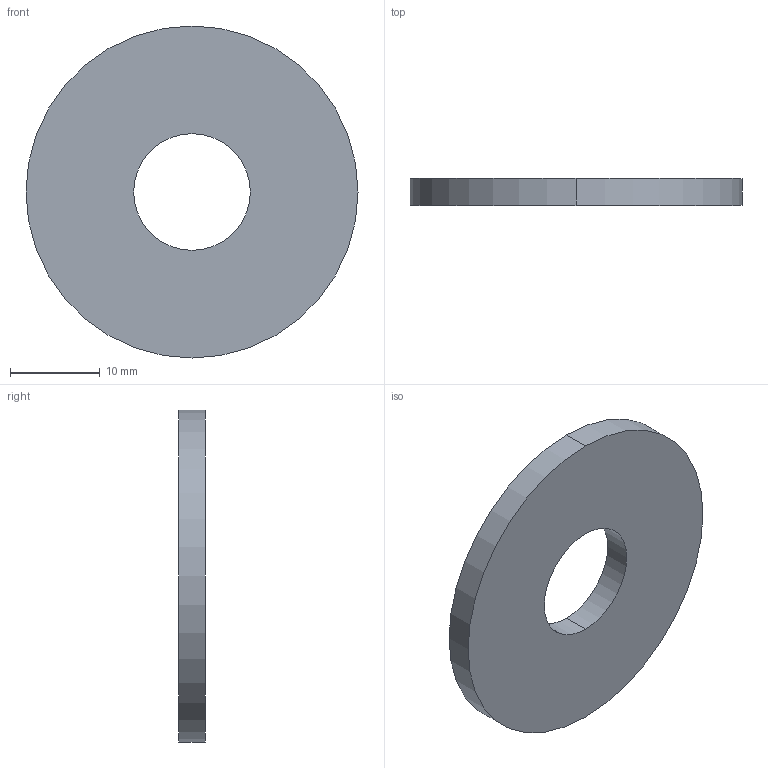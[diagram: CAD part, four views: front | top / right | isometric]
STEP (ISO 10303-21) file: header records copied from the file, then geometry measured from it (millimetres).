
FILE_DESCRIPTION (( 'STEP AP203' ), '1' );
FILE_NAME ('Wiberger-din9021_13.step', '2015-09-02T12:16:16', ( 'Magnus' ), ( 'Microsoft' ), 'SwSTEP 2.0', 'SolidWorks 2015', '' );
FILE_SCHEMA (( 'CONFIG_CONTROL_DESIGN' ));
Length unit declared in the file: millimetre
Products named in the file (1): Wiberger-din9021_13
Bounding box: 37 x 3 x 37 mm (x, y, z)
Volume: 2827.4 mm3; surface area: 2356.2 mm2
Topology: 1 solids, 1 shells, 6 faces, 12 edges, 8 vertices
Faces by surface type: cylinder 4, plane 2
Entity records: 245 total; most frequent: DIRECTION 34, CARTESIAN_POINT 27, ORIENTED_EDGE 24, AXIS2_PLACEMENT_3D 15, EDGE_CURVE 12, VERTEX_POINT 8, PERSON_AND_ORGANIZATION 8, EDGE_LOOP 8
